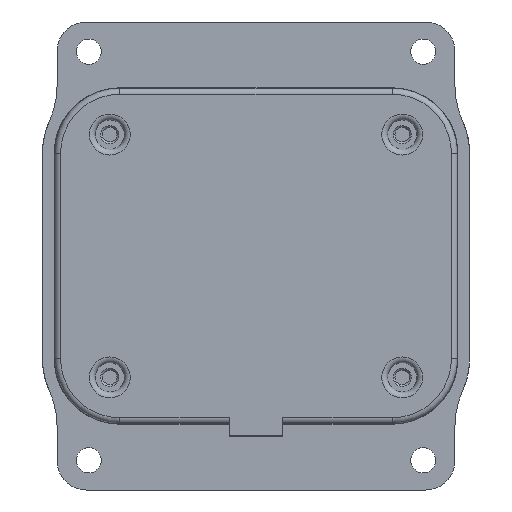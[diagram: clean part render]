
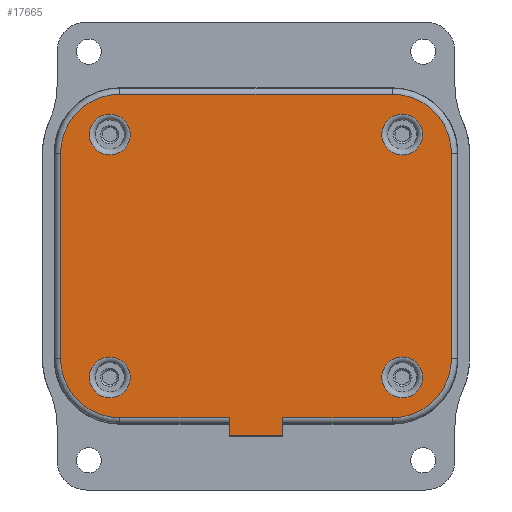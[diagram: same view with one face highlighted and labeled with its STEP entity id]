
A CAD part, front view. The second image highlights one B-rep face of the part: STEP entity #17665.
In plain terms, the highlighted planar face has unit normal (0, -1, 0) as drawn and (0, 0, -1) by its records, which use the part's own axes.
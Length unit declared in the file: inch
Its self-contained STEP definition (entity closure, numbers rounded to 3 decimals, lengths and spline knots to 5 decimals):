
#57 = VERTEX_POINT ( 'NONE', #16771 ) ;
#157 = CARTESIAN_POINT ( 'NONE',  ( 1.12205, 0.80709, 0. ) ) ;
#164 = ORIENTED_EDGE ( 'NONE', *, *, #12885, .T. ) ;
#204 = VECTOR ( 'NONE', #443, 39.37008 ) ;
#244 = CARTESIAN_POINT ( 'NONE',  ( -0.91781, -0.70079, 0. ) ) ;
#327 = AXIS2_PLACEMENT_3D ( 'NONE', #5233, #15454, #3792 ) ;
#360 = CARTESIAN_POINT ( 'NONE',  ( 0.17963, -1.14173, 0. ) ) ;
#443 = DIRECTION ( 'NONE',  ( 1., 0., 0. ) ) ;
#468 = PLANE ( 'NONE',  #11102 ) ;
#513 = DIRECTION ( 'NONE',  ( 1., 0., 0. ) ) ;
#538 = VERTEX_POINT ( 'NONE', #18024 ) ;
#576 = VERTEX_POINT ( 'NONE', #852 ) ;
#852 = CARTESIAN_POINT ( 'NONE',  ( -0.84646, 0.80709, 0. ) ) ;
#903 = CARTESIAN_POINT ( 'NONE',  ( 0.17963, -1.09843, 0. ) ) ;
#994 = AXIS2_PLACEMENT_3D ( 'NONE', #14831, #16331, #513 ) ;
#1201 = VERTEX_POINT ( 'NONE', #13244 ) ;
#1227 = EDGE_LOOP ( 'NONE', ( #2109, #6477, #164, #18249, #5580, #9313, #11163, #17161, #18011, #7830, #6256, #13110 ) ) ;
#1291 = CARTESIAN_POINT ( 'NONE',  ( 1.12205, -0.82677, 0. ) ) ;
#1675 = AXIS2_PLACEMENT_3D ( 'NONE', #15544, #12802, #9851 ) ;
#1689 = FACE_BOUND ( 'NONE', #9405, .T. ) ;
#1829 = ORIENTED_EDGE ( 'NONE', *, *, #18123, .T. ) ;
#1992 = DIRECTION ( 'NONE',  ( -1., 0., 0. ) ) ;
#2038 = ORIENTED_EDGE ( 'NONE', *, *, #8983, .T. ) ;
#2091 = CARTESIAN_POINT ( 'NONE',  ( 0.98425, -0.82677, 0. ) ) ;
#2109 = ORIENTED_EDGE ( 'NONE', *, *, #11680, .T. ) ;
#2121 = ORIENTED_EDGE ( 'NONE', *, *, #11582, .T. ) ;
#2261 = VERTEX_POINT ( 'NONE', #17205 ) ;
#2370 = EDGE_CURVE ( 'NONE', #538, #16735, #4554, .T. ) ;
#2557 = AXIS2_PLACEMENT_3D ( 'NONE', #11522, #13344, #17502 ) ;
#2590 = CARTESIAN_POINT ( 'NONE',  ( -0.91781, 1.07874, 0. ) ) ;
#2839 = CIRCLE ( 'NONE', #12543, 0.39764 ) ;
#2897 = CIRCLE ( 'NONE', #1675, 0.39764 ) ;
#3716 = CIRCLE ( 'NONE', #994, 0.39764 ) ;
#3792 = DIRECTION ( 'NONE',  ( 1., 0., 0. ) ) ;
#4019 = VERTEX_POINT ( 'NONE', #9900 ) ;
#4032 = VECTOR ( 'NONE', #6147, 39.37008 ) ;
#4166 = VERTEX_POINT ( 'NONE', #4879 ) ;
#4554 = CIRCLE ( 'NONE', #9094, 0.39764 ) ;
#4621 = VERTEX_POINT ( 'NONE', #157 ) ;
#4639 = CARTESIAN_POINT ( 'NONE',  ( -1.31545, -0.70079, 0. ) ) ;
#4728 = DIRECTION ( 'NONE',  ( 0., 1., 0. ) ) ;
#4834 = VECTOR ( 'NONE', #4728, 39.37008 ) ;
#4879 = CARTESIAN_POINT ( 'NONE',  ( 1.31545, 0.6811, 0. ) ) ;
#5080 = LINE ( 'NONE', #13440, #204 ) ;
#5228 = DIRECTION ( 'NONE',  ( 0., 0., 1. ) ) ;
#5233 = CARTESIAN_POINT ( 'NONE',  ( -0.98425, -0.82677, 0. ) ) ;
#5318 = CARTESIAN_POINT ( 'NONE',  ( -0.91781, 0.6811, 0. ) ) ;
#5445 = DIRECTION ( 'NONE',  ( -1., 0., 0. ) ) ;
#5535 = LINE ( 'NONE', #8293, #10266 ) ;
#5572 = VERTEX_POINT ( 'NONE', #15981 ) ;
#5580 = ORIENTED_EDGE ( 'NONE', *, *, #8770, .T. ) ;
#5592 = AXIS2_PLACEMENT_3D ( 'NONE', #12432, #5228, #18214 ) ;
#5871 = CARTESIAN_POINT ( 'NONE',  ( 1.31545, -0.70079, 0. ) ) ;
#5964 = DIRECTION ( 'NONE',  ( 1., 0., 0. ) ) ;
#6023 = CARTESIAN_POINT ( 'NONE',  ( 0.17963, -1.22047, 0. ) ) ;
#6147 = DIRECTION ( 'NONE',  ( 0., -1., 0. ) ) ;
#6210 = VERTEX_POINT ( 'NONE', #903 ) ;
#6256 = ORIENTED_EDGE ( 'NONE', *, *, #18758, .T. ) ;
#6477 = ORIENTED_EDGE ( 'NONE', *, *, #13298, .T. ) ;
#6534 = VECTOR ( 'NONE', #17151, 39.37008 ) ;
#6538 = VERTEX_POINT ( 'NONE', #6023 ) ;
#6666 = CIRCLE ( 'NONE', #327, 0.1378 ) ;
#6705 = DIRECTION ( 'NONE',  ( 0., 0., 1. ) ) ;
#6957 = VECTOR ( 'NONE', #11387, 39.37008 ) ;
#7118 = LINE ( 'NONE', #14334, #6957 ) ;
#7163 = VERTEX_POINT ( 'NONE', #1291 ) ;
#7443 = EDGE_CURVE ( 'NONE', #2261, #1201, #13455, .T. ) ;
#7606 = LINE ( 'NONE', #13675, #16358 ) ;
#7687 = CARTESIAN_POINT ( 'NONE',  ( 0.91782, -1.09843, 0. ) ) ;
#7730 = CIRCLE ( 'NONE', #2557, 0.1378 ) ;
#7830 = ORIENTED_EDGE ( 'NONE', *, *, #18744, .T. ) ;
#7885 = DIRECTION ( 'NONE',  ( 1., 0., 0. ) ) ;
#8159 = DIRECTION ( 'NONE',  ( 1., 0., 0. ) ) ;
#8293 = CARTESIAN_POINT ( 'NONE',  ( -0.91781, -1.09843, 0. ) ) ;
#8601 = ORIENTED_EDGE ( 'NONE', *, *, #15312, .T. ) ;
#8609 = EDGE_CURVE ( 'NONE', #16735, #5572, #7118, .T. ) ;
#8770 = EDGE_CURVE ( 'NONE', #1201, #538, #7606, .T. ) ;
#8805 = FACE_BOUND ( 'NONE', #12352, .T. ) ;
#8983 = EDGE_CURVE ( 'NONE', #9282, #9282, #6666, .T. ) ;
#9094 = AXIS2_PLACEMENT_3D ( 'NONE', #244, #12007, #11617 ) ;
#9135 = VERTEX_POINT ( 'NONE', #7687 ) ;
#9282 = VERTEX_POINT ( 'NONE', #9366 ) ;
#9313 = ORIENTED_EDGE ( 'NONE', *, *, #2370, .T. ) ;
#9366 = CARTESIAN_POINT ( 'NONE',  ( -0.84646, -0.82677, 0. ) ) ;
#9405 = EDGE_LOOP ( 'NONE', ( #1829 ) ) ;
#9530 = CIRCLE ( 'NONE', #5592, 0.1378 ) ;
#9851 = DIRECTION ( 'NONE',  ( 1., 0., 0. ) ) ;
#9900 = CARTESIAN_POINT ( 'NONE',  ( 1.31545, -0.70079, 0. ) ) ;
#10266 = VECTOR ( 'NONE', #5445, 39.37008 ) ;
#10411 = CARTESIAN_POINT ( 'NONE',  ( -0.17963, -1.14173, 0. ) ) ;
#10539 = DIRECTION ( 'NONE',  ( -1., 0., 0. ) ) ;
#11014 = EDGE_CURVE ( 'NONE', #4019, #9135, #3716, .T. ) ;
#11075 = LINE ( 'NONE', #15160, #16313 ) ;
#11102 = AXIS2_PLACEMENT_3D ( 'NONE', #13269, #16285, #5964 ) ;
#11163 = ORIENTED_EDGE ( 'NONE', *, *, #8609, .T. ) ;
#11387 = DIRECTION ( 'NONE',  ( 0., 1., 0. ) ) ;
#11522 = CARTESIAN_POINT ( 'NONE',  ( -0.98425, 0.80709, 0. ) ) ;
#11582 = EDGE_CURVE ( 'NONE', #7163, #7163, #14506, .T. ) ;
#11617 = DIRECTION ( 'NONE',  ( 1., 0., 0. ) ) ;
#11680 = EDGE_CURVE ( 'NONE', #9135, #6210, #5535, .T. ) ;
#12007 = DIRECTION ( 'NONE',  ( 0., 0., -1. ) ) ;
#12352 = EDGE_LOOP ( 'NONE', ( #8601 ) ) ;
#12432 = CARTESIAN_POINT ( 'NONE',  ( 0.98425, 0.80709, 0. ) ) ;
#12543 = AXIS2_PLACEMENT_3D ( 'NONE', #5318, #13853, #8159 ) ;
#12802 = DIRECTION ( 'NONE',  ( 0., 0., -1. ) ) ;
#12885 = EDGE_CURVE ( 'NONE', #6538, #2261, #11075, .T. ) ;
#13110 = ORIENTED_EDGE ( 'NONE', *, *, #11014, .T. ) ;
#13244 = CARTESIAN_POINT ( 'NONE',  ( -0.17963, -1.09843, 0. ) ) ;
#13269 = CARTESIAN_POINT ( 'NONE',  ( -0.91781, -0.70079, 0. ) ) ;
#13298 = EDGE_CURVE ( 'NONE', #6210, #6538, #13358, .T. ) ;
#13344 = DIRECTION ( 'NONE',  ( 0., 0., 1. ) ) ;
#13358 = LINE ( 'NONE', #360, #4032 ) ;
#13369 = FACE_OUTER_BOUND ( 'NONE', #1227, .T. ) ;
#13440 = CARTESIAN_POINT ( 'NONE',  ( -0.91781, 1.07874, 0. ) ) ;
#13455 = LINE ( 'NONE', #10411, #4834 ) ;
#13675 = CARTESIAN_POINT ( 'NONE',  ( -0.91781, -1.09843, 0. ) ) ;
#13853 = DIRECTION ( 'NONE',  ( 0., 0., -1. ) ) ;
#14166 = EDGE_CURVE ( 'NONE', #5572, #15654, #2839, .T. ) ;
#14334 = CARTESIAN_POINT ( 'NONE',  ( -1.31545, -0.70079, 0. ) ) ;
#14390 = EDGE_LOOP ( 'NONE', ( #2038 ) ) ;
#14506 = CIRCLE ( 'NONE', #17492, 0.1378 ) ;
#14831 = CARTESIAN_POINT ( 'NONE',  ( 0.91782, -0.70079, 0. ) ) ;
#15160 = CARTESIAN_POINT ( 'NONE',  ( 0.17963, -1.22047, 0. ) ) ;
#15312 = EDGE_CURVE ( 'NONE', #4621, #4621, #9530, .T. ) ;
#15454 = DIRECTION ( 'NONE',  ( 0., 0., 1. ) ) ;
#15544 = CARTESIAN_POINT ( 'NONE',  ( 0.91782, 0.6811, 0. ) ) ;
#15654 = VERTEX_POINT ( 'NONE', #2590 ) ;
#15981 = CARTESIAN_POINT ( 'NONE',  ( -1.31545, 0.6811, 0. ) ) ;
#15999 = FACE_BOUND ( 'NONE', #14390, .T. ) ;
#16285 = DIRECTION ( 'NONE',  ( 0., 0., 1. ) ) ;
#16313 = VECTOR ( 'NONE', #1992, 39.37008 ) ;
#16331 = DIRECTION ( 'NONE',  ( 0., 0., -1. ) ) ;
#16358 = VECTOR ( 'NONE', #10539, 39.37008 ) ;
#16735 = VERTEX_POINT ( 'NONE', #4639 ) ;
#16771 = CARTESIAN_POINT ( 'NONE',  ( 0.91782, 1.07874, 0. ) ) ;
#17151 = DIRECTION ( 'NONE',  ( 0., -1., 0. ) ) ;
#17161 = ORIENTED_EDGE ( 'NONE', *, *, #14166, .T. ) ;
#17205 = CARTESIAN_POINT ( 'NONE',  ( -0.17963, -1.22047, 0. ) ) ;
#17249 = EDGE_CURVE ( 'NONE', #15654, #57, #5080, .T. ) ;
#17492 = AXIS2_PLACEMENT_3D ( 'NONE', #2091, #6705, #7885 ) ;
#17502 = DIRECTION ( 'NONE',  ( 1., 0., 0. ) ) ;
#17526 = FACE_BOUND ( 'NONE', #18502, .T. ) ;
#17665 = ADVANCED_FACE ( 'NONE', ( #15999, #1689, #8805, #17526, #13369 ), #468, .F. ) ;
#18011 = ORIENTED_EDGE ( 'NONE', *, *, #17249, .T. ) ;
#18024 = CARTESIAN_POINT ( 'NONE',  ( -0.91781, -1.09843, 0. ) ) ;
#18123 = EDGE_CURVE ( 'NONE', #576, #576, #7730, .T. ) ;
#18214 = DIRECTION ( 'NONE',  ( 1., 0., 0. ) ) ;
#18249 = ORIENTED_EDGE ( 'NONE', *, *, #7443, .T. ) ;
#18502 = EDGE_LOOP ( 'NONE', ( #2121 ) ) ;
#18581 = LINE ( 'NONE', #5871, #6534 ) ;
#18744 = EDGE_CURVE ( 'NONE', #57, #4166, #2897, .T. ) ;
#18758 = EDGE_CURVE ( 'NONE', #4166, #4019, #18581, .T. ) ;
